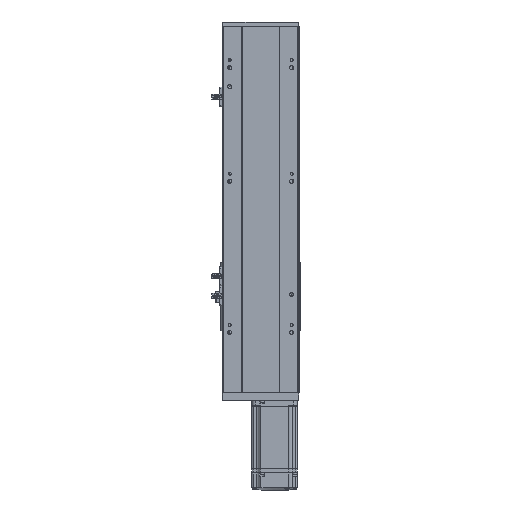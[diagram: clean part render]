
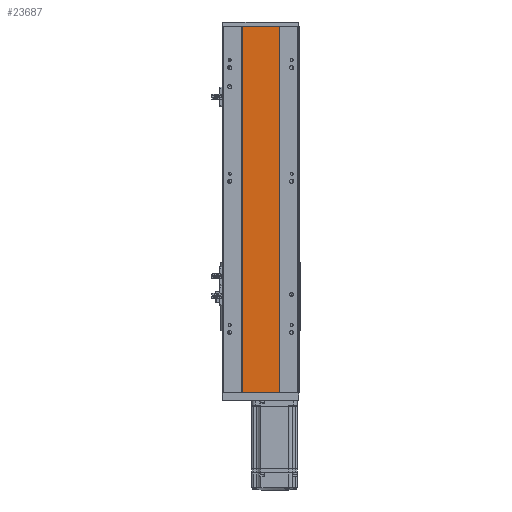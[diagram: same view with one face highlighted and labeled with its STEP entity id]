
A CAD part, front view. The second image highlights one B-rep face of the part: STEP entity #23687.
In plain terms, the highlighted planar face has unit normal (0, -1, 0).
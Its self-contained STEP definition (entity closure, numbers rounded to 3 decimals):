
#510 = EDGE_CURVE ( 'NONE', #14480, #22710, #17787, .T. ) ;
#1487 = LINE ( 'NONE', #13177, #7348 ) ;
#2778 = DIRECTION ( 'NONE',  ( 0., 0., 1. ) ) ;
#3149 = CARTESIAN_POINT ( 'NONE',  ( 1579.351, 60.479, -484.5 ) ) ;
#5514 = CARTESIAN_POINT ( 'NONE',  ( 1579.351, 60.479, 0. ) ) ;
#6726 = AXIS2_PLACEMENT_3D ( 'NONE', #6742, #26278, #31234 ) ;
#6742 = CARTESIAN_POINT ( 'NONE',  ( 1579.351, 60.479, -484.5 ) ) ;
#7348 = VECTOR ( 'NONE', #11241, 1000. ) ;
#7848 = EDGE_CURVE ( 'NONE', #13786, #14480, #1487, .T. ) ;
#8934 = ORIENTED_EDGE ( 'NONE', *, *, #23493, .F. ) ;
#10485 = LINE ( 'NONE', #5514, #12380 ) ;
#11241 = DIRECTION ( 'NONE',  ( 1., 0., 0. ) ) ;
#12209 = CARTESIAN_POINT ( 'NONE',  ( 1628.351, 60.479, -484.5 ) ) ;
#12380 = VECTOR ( 'NONE', #23111, 1000. ) ;
#12805 = ORIENTED_EDGE ( 'NONE', *, *, #28555, .F. ) ;
#13177 = CARTESIAN_POINT ( 'NONE',  ( 1579.351, 60.479, -484.5 ) ) ;
#13222 = DIRECTION ( 'NONE',  ( 0., 0., 1. ) ) ;
#13286 = CARTESIAN_POINT ( 'NONE',  ( 1628.351, 60.479, 0. ) ) ;
#13786 = VERTEX_POINT ( 'NONE', #24514 ) ;
#14480 = VERTEX_POINT ( 'NONE', #30781 ) ;
#16730 = VECTOR ( 'NONE', #2778, 1000. ) ;
#17787 = LINE ( 'NONE', #12209, #16730 ) ;
#19903 = VERTEX_POINT ( 'NONE', #28535 ) ;
#21990 = ORIENTED_EDGE ( 'NONE', *, *, #510, .T. ) ;
#22710 = VERTEX_POINT ( 'NONE', #13286 ) ;
#23111 = DIRECTION ( 'NONE',  ( 1., 0., 0. ) ) ;
#23493 = EDGE_CURVE ( 'NONE', #19903, #22710, #10485, .T. ) ;
#23687 = ADVANCED_FACE ( 'NONE', ( #31082 ), #28674, .T. ) ;
#23948 = EDGE_LOOP ( 'NONE', ( #8934, #12805, #30432, #21990 ) ) ;
#24514 = CARTESIAN_POINT ( 'NONE',  ( 1579.351, 60.479, -484.5 ) ) ;
#24919 = VECTOR ( 'NONE', #13222, 1000. ) ;
#26278 = DIRECTION ( 'NONE',  ( 0., -1., 0. ) ) ;
#28535 = CARTESIAN_POINT ( 'NONE',  ( 1579.351, 60.479, 0. ) ) ;
#28555 = EDGE_CURVE ( 'NONE', #13786, #19903, #30185, .T. ) ;
#28674 = PLANE ( 'NONE',  #6726 ) ;
#30185 = LINE ( 'NONE', #3149, #24919 ) ;
#30432 = ORIENTED_EDGE ( 'NONE', *, *, #7848, .T. ) ;
#30781 = CARTESIAN_POINT ( 'NONE',  ( 1628.351, 60.479, -484.5 ) ) ;
#31082 = FACE_OUTER_BOUND ( 'NONE', #23948, .T. ) ;
#31234 = DIRECTION ( 'NONE',  ( 0., 0., -1. ) ) ;
